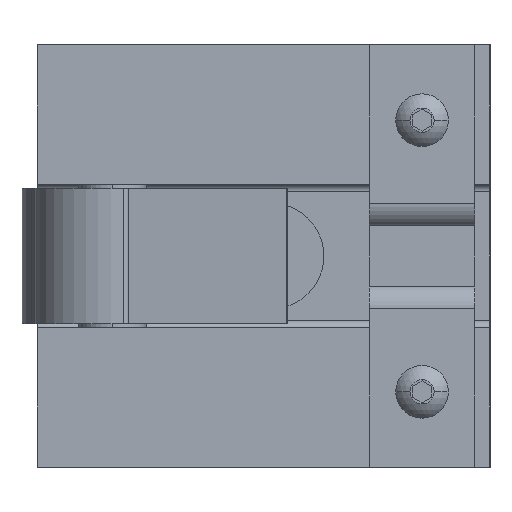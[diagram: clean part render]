
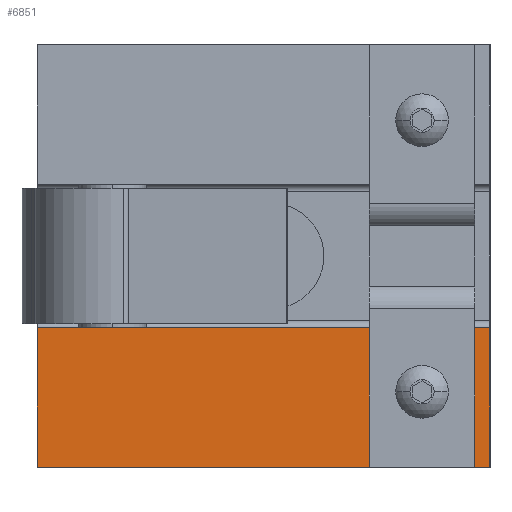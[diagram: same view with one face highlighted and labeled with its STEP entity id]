
A CAD part, left-side view. The second image highlights one B-rep face of the part: STEP entity #6851.
In plain terms, the highlighted planar face has unit normal (-1, 0, 0).
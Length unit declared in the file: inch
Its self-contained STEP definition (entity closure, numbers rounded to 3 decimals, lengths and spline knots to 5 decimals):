
#3041 = VERTEX_POINT ( 'NONE', #5691 ) ;
#3054 = VERTEX_POINT ( 'NONE', #5542 ) ;
#3098 = EDGE_CURVE ( 'NONE', #3054, #3129, #5774, .T. ) ;
#3129 = VERTEX_POINT ( 'NONE', #5892 ) ;
#3180 = EDGE_CURVE ( 'NONE', #3041, #3181, #5819, .T. ) ;
#3181 = VERTEX_POINT ( 'NONE', #5814 ) ;
#5542 = CARTESIAN_POINT ( 'NONE',  ( 6.16298, 6.65599, -3.5 ) ) ;
#5691 = CARTESIAN_POINT ( 'NONE',  ( 6.16298, 3.46799, -3. ) ) ;
#5771 = DIRECTION ( 'NONE',  ( 0., 0., 1. ) ) ;
#5772 = VECTOR ( 'NONE', #5771, 39.37008 ) ;
#5773 = CARTESIAN_POINT ( 'NONE',  ( 6.16298, 6.65599, -3.5 ) ) ;
#5774 = LINE ( 'NONE', #5773, #5772 ) ;
#5814 = CARTESIAN_POINT ( 'NONE',  ( 6.16298, 3.46799, -2.75 ) ) ;
#5815 = DIRECTION ( 'NONE',  ( 0., 0., 1. ) ) ;
#5816 = DIRECTION ( 'NONE',  ( -1., 0., 0. ) ) ;
#5817 = CARTESIAN_POINT ( 'NONE',  ( 6.16298, 3.46799, -2.875 ) ) ;
#5818 = AXIS2_PLACEMENT_3D ( 'NONE', #5817, #5816, #5815 ) ;
#5819 = CIRCLE ( 'NONE', #5818, 0.125 ) ;
#5892 = CARTESIAN_POINT ( 'NONE',  ( 6.16298, 6.65599, -2.3425 ) ) ;
#6851 = ADVANCED_FACE ( 'NONE', ( #11233, #11232 ), #11296, .T. ) ;
#6852 = EDGE_LOOP ( 'NONE', ( #6853, #6855 ) ) ;
#6853 = ORIENTED_EDGE ( 'NONE', *, *, #6854, .F. ) ;
#6854 = EDGE_CURVE ( 'NONE', #3181, #3041, #11131, .T. ) ;
#6855 = ORIENTED_EDGE ( 'NONE', *, *, #3180, .F. ) ;
#6856 = EDGE_LOOP ( 'NONE', ( #6857, #6920, #6921, #6924 ) ) ;
#6857 = ORIENTED_EDGE ( 'NONE', *, *, #6858, .F. ) ;
#6858 = EDGE_CURVE ( 'NONE', #3129, #6859, #11124, .T. ) ;
#6859 = VERTEX_POINT ( 'NONE', #11095 ) ;
#6920 = ORIENTED_EDGE ( 'NONE', *, *, #3098, .F. ) ;
#6921 = ORIENTED_EDGE ( 'NONE', *, *, #6922, .T. ) ;
#6922 = EDGE_CURVE ( 'NONE', #3054, #6923, #11310, .T. ) ;
#6923 = VERTEX_POINT ( 'NONE', #11287 ) ;
#6924 = ORIENTED_EDGE ( 'NONE', *, *, #6925, .T. ) ;
#6925 = EDGE_CURVE ( 'NONE', #6923, #6859, #11285, .T. ) ;
#11095 = CARTESIAN_POINT ( 'NONE',  ( 6.16298, 2.90599, -2.3425 ) ) ;
#11121 = DIRECTION ( 'NONE',  ( 0., -1., 0. ) ) ;
#11122 = VECTOR ( 'NONE', #11121, 39.37008 ) ;
#11123 = CARTESIAN_POINT ( 'NONE',  ( 6.16298, 2.90599, -2.3425 ) ) ;
#11124 = LINE ( 'NONE', #11123, #11122 ) ;
#11127 = DIRECTION ( 'NONE',  ( 0., 0., 1. ) ) ;
#11128 = DIRECTION ( 'NONE',  ( -1., 0., 0. ) ) ;
#11129 = AXIS2_PLACEMENT_3D ( 'NONE', #11291, #11128, #11127 ) ;
#11131 = CIRCLE ( 'NONE', #11129, 0.125 ) ;
#11232 = FACE_OUTER_BOUND ( 'NONE', #6856, .T. ) ;
#11233 = FACE_BOUND ( 'NONE', #6852, .T. ) ;
#11282 = DIRECTION ( 'NONE',  ( 0., 0., 1. ) ) ;
#11283 = VECTOR ( 'NONE', #11282, 39.37008 ) ;
#11284 = CARTESIAN_POINT ( 'NONE',  ( 6.16298, 2.90599, -3.5 ) ) ;
#11285 = LINE ( 'NONE', #11284, #11283 ) ;
#11287 = CARTESIAN_POINT ( 'NONE',  ( 6.16298, 2.90599, -3.5 ) ) ;
#11288 = DIRECTION ( 'NONE',  ( 0., 0., 1. ) ) ;
#11289 = DIRECTION ( 'NONE',  ( -1., 0., 0. ) ) ;
#11290 = CARTESIAN_POINT ( 'NONE',  ( 6.16298, 2.90599, -3.5 ) ) ;
#11291 = CARTESIAN_POINT ( 'NONE',  ( 6.16298, 3.46799, -2.875 ) ) ;
#11295 = AXIS2_PLACEMENT_3D ( 'NONE', #11290, #11289, #11288 ) ;
#11296 = PLANE ( 'NONE',  #11295 ) ;
#11304 = DIRECTION ( 'NONE',  ( 0., -1., 0. ) ) ;
#11306 = VECTOR ( 'NONE', #11304, 39.37008 ) ;
#11308 = CARTESIAN_POINT ( 'NONE',  ( 6.16298, 2.90599, -3.5 ) ) ;
#11310 = LINE ( 'NONE', #11308, #11306 ) ;
